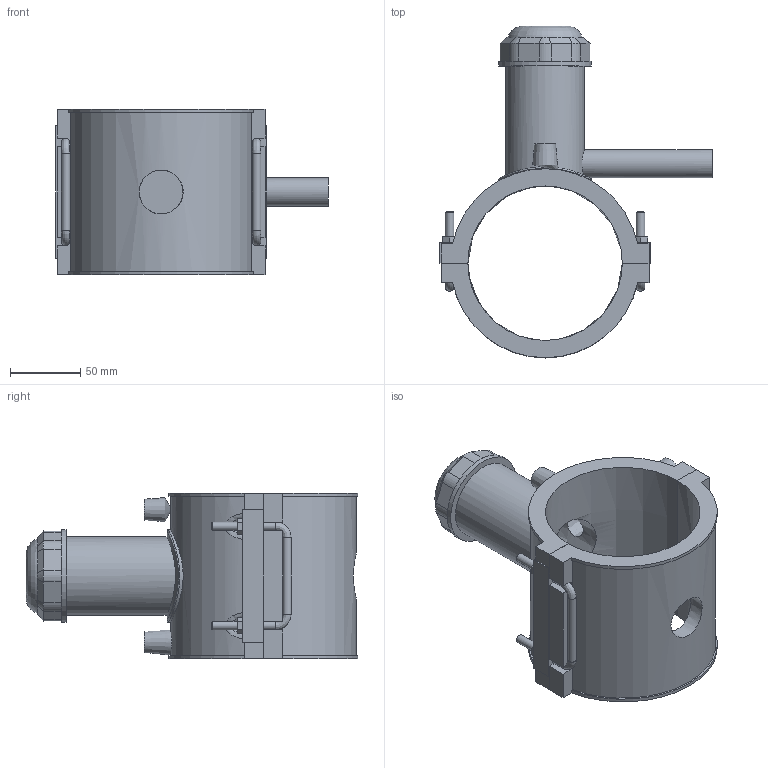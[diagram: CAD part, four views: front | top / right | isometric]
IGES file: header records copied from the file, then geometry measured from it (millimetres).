
Global section: file name: 496304110020.ipt; native system: Autodesk Inventor 2015; preprocessor: unknown; author: KIM; date: 20190124.130812; units: millimetre
Bounding box: 194 x 236.32 x 118 mm (x, y, z)
Volume: 687881 mm3; surface area: 165895.7 mm2
Topology: 2 solids, 2 shells, 188 faces, 487 edges, 317 vertices
Faces by surface type: plane 117, cylinder 32, revolution 20, cone 14, bspline 5
Full cylindrical faces by diameter (mm): 4 x2, 6 x10, 20 x1, 56.1 x1, 66 x2
